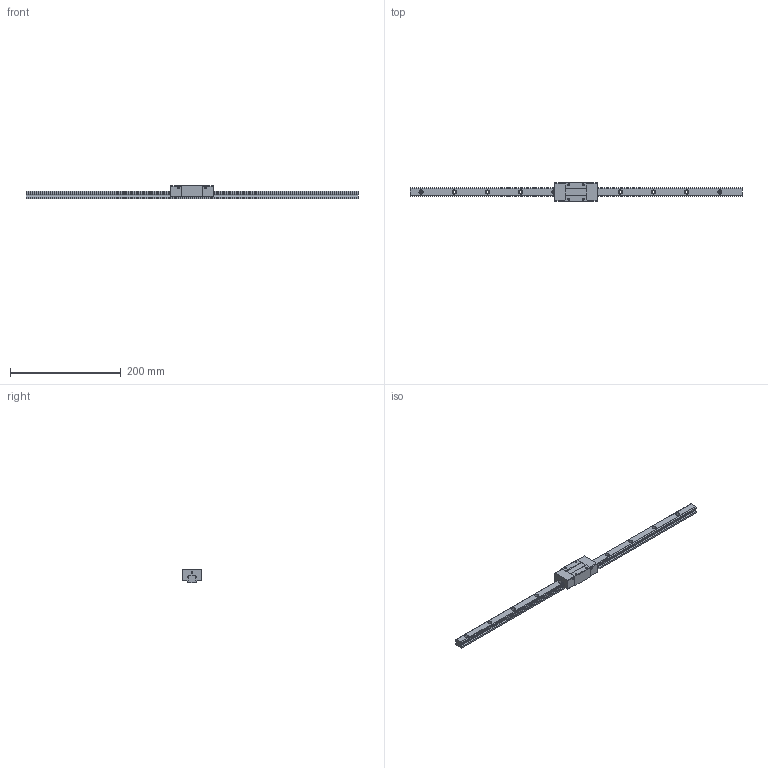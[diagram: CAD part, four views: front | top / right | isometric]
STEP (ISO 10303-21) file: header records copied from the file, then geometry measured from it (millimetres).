
FILE_DESCRIPTION (( 'STEP AP203' ), '1' );
FILE_NAME ('TRS15VN-WZ.STEP', '2024-06-12T06:23:29', ( '' ), ( '' ), 'SwSTEP 2.0', 'SolidWorks 2022', '' );
FILE_SCHEMA (( 'CONFIG_CONTROL_DESIGN' ));
Length unit declared in the file: millimetre
Products named in the file (1): TRS15VN-WZ
Bounding box: 600 x 34 x 24 mm (x, y, z)
Volume: 142946.5 mm3; surface area: 48521.3 mm2
Topology: 2 solids, 2 shells, 204 faces, 528 edges, 340 vertices
Faces by surface type: cylinder 96, plane 92, cone 16
Entity records: 6319 total; most frequent: DIRECTION 1130, CARTESIAN_POINT 1065, ORIENTED_EDGE 1040, EDGE_CURVE 520, AXIS2_PLACEMENT_3D 405, VERTEX_POINT 340, LINE 320, VECTOR 320
